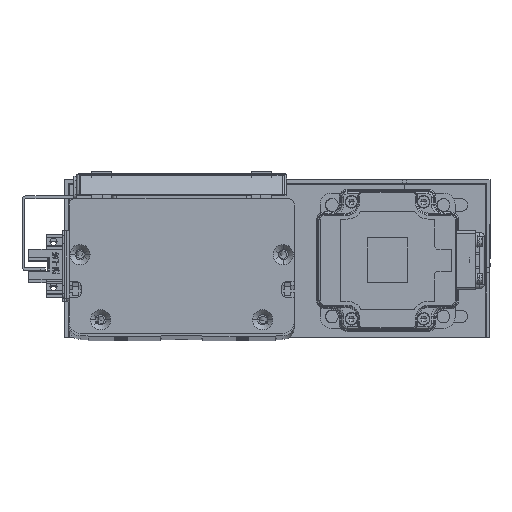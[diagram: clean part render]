
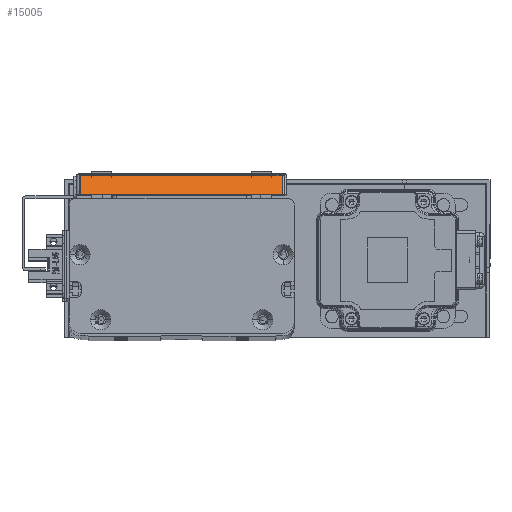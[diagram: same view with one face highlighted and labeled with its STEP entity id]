
A CAD part, top view. The second image highlights one B-rep face of the part: STEP entity #15005.
In plain terms, the highlighted planar face has unit normal (0, 0.707, 0.707) as drawn and (-0.707, 0, -0.707) by its records, which use the part's own axes.
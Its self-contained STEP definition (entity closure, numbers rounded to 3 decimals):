
#1145 = CARTESIAN_POINT ( 'NONE',  ( -66.5, 1.7, 4.1 ) ) ;
#2029 = VECTOR ( 'NONE', #11159, 1000. ) ;
#2985 = ORIENTED_EDGE ( 'NONE', *, *, #40121, .T. ) ;
#4474 = CARTESIAN_POINT ( 'NONE',  ( -57.298, 93.4, -5.102 ) ) ;
#4940 = FACE_OUTER_BOUND ( 'NONE', #28414, .T. ) ;
#6057 = CARTESIAN_POINT ( 'NONE',  ( -68., 1.7, 5.6 ) ) ;
#10681 = DIRECTION ( 'NONE',  ( -0.707, 0., -0.707 ) ) ;
#11159 = DIRECTION ( 'NONE',  ( 0., 1., 0. ) ) ;
#11510 = DIRECTION ( 'NONE',  ( -0.707, 0., 0.707 ) ) ;
#15005 = ADVANCED_FACE ( 'NONE', ( #4940 ), #21302, .T. ) ;
#18270 = LINE ( 'NONE', #6057, #62326 ) ;
#18338 = EDGE_CURVE ( 'NONE', #68949, #70341, #18270, .T. ) ;
#21302 = PLANE ( 'NONE',  #23601 ) ;
#23601 = AXIS2_PLACEMENT_3D ( 'NONE', #64667, #10681, #59280 ) ;
#25378 = LINE ( 'NONE', #53677, #33827 ) ;
#28414 = EDGE_LOOP ( 'NONE', ( #39971, #2985, #58884, #43311 ) ) ;
#28612 = VERTEX_POINT ( 'NONE', #56503 ) ;
#33413 = VECTOR ( 'NONE', #57796, 1000. ) ;
#33827 = VECTOR ( 'NONE', #43225, 1000. ) ;
#39971 = ORIENTED_EDGE ( 'NONE', *, *, #18338, .T. ) ;
#40121 = EDGE_CURVE ( 'NONE', #70341, #63017, #61339, .T. ) ;
#41397 = CARTESIAN_POINT ( 'NONE',  ( -57.298, 1.7, -5.102 ) ) ;
#43225 = DIRECTION ( 'NONE',  ( 0.707, 0., -0.707 ) ) ;
#43311 = ORIENTED_EDGE ( 'NONE', *, *, #58626, .T. ) ;
#47854 = LINE ( 'NONE', #4474, #33413 ) ;
#50121 = CARTESIAN_POINT ( 'NONE',  ( -66.5, 91.7, 4.1 ) ) ;
#53677 = CARTESIAN_POINT ( 'NONE',  ( -68., 91.7, 5.6 ) ) ;
#56503 = CARTESIAN_POINT ( 'NONE',  ( -57.298, 91.7, -5.102 ) ) ;
#57796 = DIRECTION ( 'NONE',  ( 0., -1., 0. ) ) ;
#58626 = EDGE_CURVE ( 'NONE', #28612, #68949, #47854, .T. ) ;
#58884 = ORIENTED_EDGE ( 'NONE', *, *, #69710, .T. ) ;
#59280 = DIRECTION ( 'NONE',  ( -0.707, 0., 0.707 ) ) ;
#59516 = CARTESIAN_POINT ( 'NONE',  ( -66.5, 93.4, 4.1 ) ) ;
#61339 = LINE ( 'NONE', #59516, #2029 ) ;
#62326 = VECTOR ( 'NONE', #11510, 1000. ) ;
#63017 = VERTEX_POINT ( 'NONE', #50121 ) ;
#64667 = CARTESIAN_POINT ( 'NONE',  ( -68., 93.4, 5.6 ) ) ;
#68949 = VERTEX_POINT ( 'NONE', #41397 ) ;
#69710 = EDGE_CURVE ( 'NONE', #63017, #28612, #25378, .T. ) ;
#70341 = VERTEX_POINT ( 'NONE', #1145 ) ;
